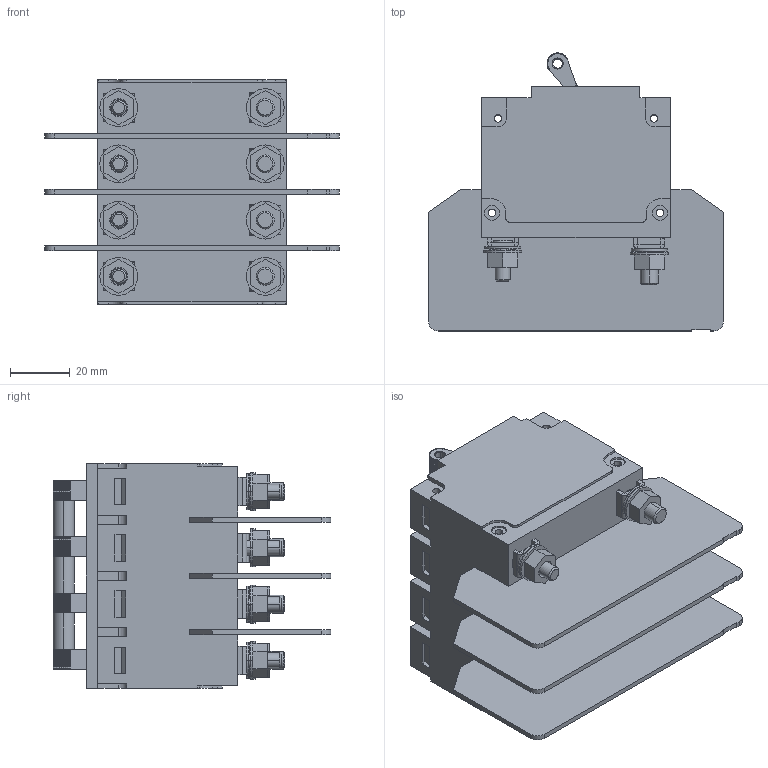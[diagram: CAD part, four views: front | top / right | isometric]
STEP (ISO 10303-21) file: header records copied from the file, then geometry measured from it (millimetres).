
FILE_DESCRIPTION((''),'2;1');
FILE_NAME('CR_MODEL_4P_SW0001','2008-07-08T',('davidparker'),(''),'PRO/ENGINEER BY PARAMETRIC TECHNOLOGY CORPORATION, 2008010','PRO/ENGINEER BY PARAMETRIC TECHNOLOGY CORPORATION, 2008010','');
FILE_SCHEMA(('CONFIG_CONTROL_DESIGN'));
Products named in the file (1): CR_MODEL_4P_SW0001
Bounding box: 99.06 x 93.38 x 75.59 mm (x, y, z)
Volume: 134834.9 mm3; surface area: 110359.2 mm2
Topology: 9 solids, 9 shells, 5363 faces, 14712 edges, 9473 vertices
Faces by surface type: plane 3795, cylinder 1074, bspline 322, cone 112, torus 60
Entity records: 179201 total; most frequent: CARTESIAN_POINT 41876, ORIENTED_EDGE 29424, DIRECTION 27324, EDGE_CURVE 14712, VECTOR 11396, LINE 11396, VERTEX_POINT 9473, AXIS2_PLACEMENT_3D 7964
